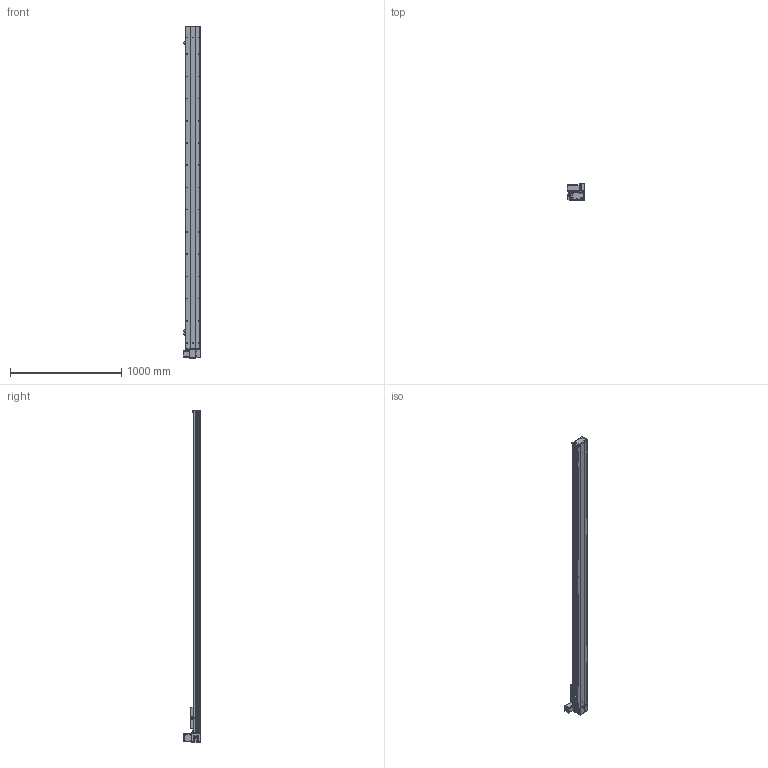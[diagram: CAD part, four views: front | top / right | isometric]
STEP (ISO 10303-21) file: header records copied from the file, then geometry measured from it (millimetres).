
FILE_DESCRIPTION (( 'STEP AP203' ), '1' );
FILE_NAME ('Y135CB-D90-S2600-UL-P400W.STEP', '2020-02-18T08:06:58', ( '微软用户' ), ( '微软中国' ), 'SwSTEP 2.0', 'SolidWorks 2017', '' );
FILE_SCHEMA (( 'CONFIG_CONTROL_DESIGN' ));
Length unit declared in the file: millimetre
Products named in the file (18): Y10B--々湍喘謫眊--666; C-詩湍揤踡え-陔; Y135CB-耜裔; Y135CB-D90-S2600-UL-P400W; 135CB--詩湍-CE; 135CB---遴掛极.-; Y100-135俋离換覜ん--; 35CB---喘謫眊楊擘啣; Y135C-陔俋离換覜結え-; 0B-埴倛裔啣; 5C--俋欶; 0B-源倛裔啣; C-雄赽釱--; 0B-萇儂楊擘啣; Y10B-耜蚾蟀諉啣----; san松下电机400不带刹车----; 00B-俋欶BM--; 5CB --掛极耜裔啣-
Assembly tree (21 placements, depth 2):
  Y135CB-D90-S2600-UL-P400W
    Y135CB-耜裔
    135CB---遴掛极.-
    35CB---喘謫眊楊擘啣
    0B-埴倛裔啣
    0B-源倛裔啣
    0B-萇儂楊擘啣
    san松下电机400不带刹车----
    5CB --掛极耜裔啣-  x2
    C-詩湍揤踡え-陔  x2
    135CB--詩湍-CE
    Y100-135俋离換覜ん--  x3
    Y135C-陔俋离換覜結え-
    5C--俋欶
    C-雄赽釱--
    Y10B-耜蚾蟀諉啣----
    00B-俋欶BM--
    Y10B--々湍喘謫眊--666
Bounding box: 157 x 158.7 x 2988 mm (x, y, z)
Volume: 8541510.7 mm3; surface area: 3384255.6 mm2
Topology: 21 solids, 21 shells, 977 faces, 2671 edges, 1770 vertices
Faces by surface type: cylinder 505, plane 456, cone 16
Entity records: 30965 total; most frequent: CARTESIAN_POINT 5164, DIRECTION 5147, ORIENTED_EDGE 4818, EDGE_CURVE 2409, AXIS2_PLACEMENT_3D 1889, VERTEX_POINT 1598, VECTOR 1369, LINE 1369
